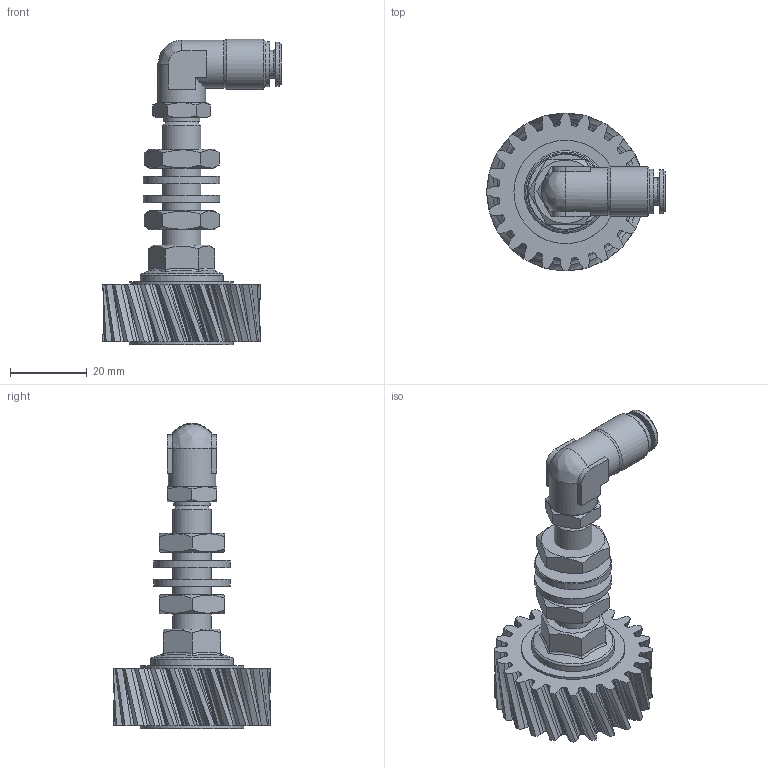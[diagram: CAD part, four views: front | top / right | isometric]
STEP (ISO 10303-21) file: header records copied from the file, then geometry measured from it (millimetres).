
FILE_DESCRIPTION (( 'STEP AP214' ), '1' );
FILE_NAME ('012_13_015_15_24ALZ.STEP', '2026-04-14T13:27:35', ( '' ), ( '' ), 'SwSTEP 2.0', 'SolidWorks 2022', '' );
FILE_SCHEMA (( 'AUTOMOTIVE_DESIGN' ));
Length unit declared in the file: millimetre
Products named in the file (13): R11155-N2; OR 7.2X1.9; H214667-HDS_1-8_M6X1Z; 12012_06_01_Scheibe-CRS-VA_27.SLDASM; H202225_HDS_022_6_M6_28.09.22; Modul_1.5_S_L; U_Scheibe_10.5; 012_13_015_15_24ALZ; DR6-C_HDX_25.07.16; 012_06_Senkschraube; Mutter_M10; Achse_M10_1_Schmierzahnrad
Assembly tree (14 placements, depth 4):
  012_13_015_15_24ALZ
    Achse_M10_1_Schmierzahnrad
    12012_06_01_Scheibe-CRS-VA_27.SLDASM
    012_06_Senkschraube
    Mutter_M10  x2
    U_Scheibe_10.5  x2
    H202225_HDS_022_6_M6_28.09.22
      R11155-N2
      DR6-C_HDX_25.07.16
      H214667-HDS_1-8_M6X1Z
        H214667-HDS_1-8_M6X1Z
        OR 7.2X1.9
    Modul_1.5_S_L
Bounding box: 46.6 x 41.2 x 79.7 mm (x, y, z)
Volume: 28767.4 mm3; surface area: 17571.9 mm2
Topology: 12 solids, 12 shells, 731 faces, 1984 edges, 1313 vertices
Faces by surface type: plane 328, bspline 287, cylinder 63, cone 49, torus 4
Full cylindrical faces by diameter (mm): 2 x1, 4 x1, 4.6 x1, 5 x1, 6 x2, 6.2 x1, 6.3 x1, 7.2 x1, 8.5 x2, 9 x2, 9.5 x1, 9.9 x1, 10 x2, 10.1 x2, 10.3 x1, 10.5 x2, 11.5 x1, 11.7 x1, 12.5 x2, 13 x1, 20 x2, 21.6 x1, 27 x2
Entity records: 61285 total; most frequent: CARTESIAN_POINT 43743, ORIENTED_EDGE 3662, DIRECTION 2486, EDGE_CURVE 1831, VERTEX_POINT 1245, VECTOR 1074, LINE 1074, EDGE_LOOP 832
